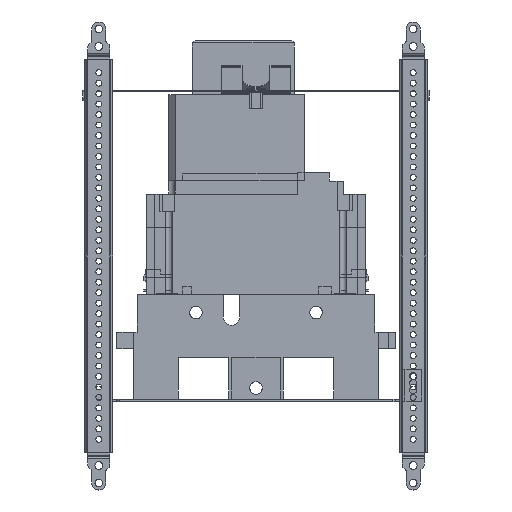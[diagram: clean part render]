
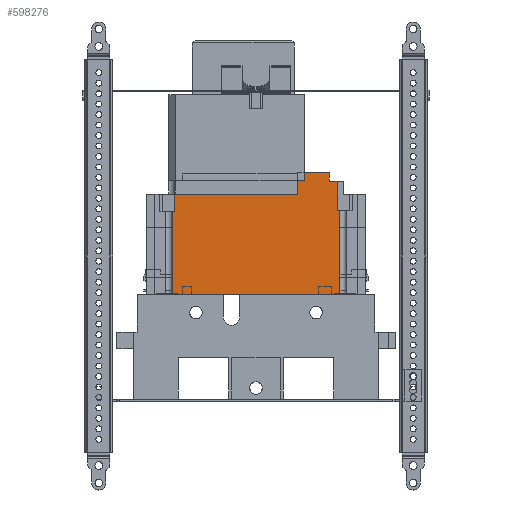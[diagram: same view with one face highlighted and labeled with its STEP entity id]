
A CAD part, left-side view. The second image highlights one B-rep face of the part: STEP entity #598276.
In plain terms, the highlighted planar face has unit normal (-1, 0, 0).
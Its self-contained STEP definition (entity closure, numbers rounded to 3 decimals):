
#583701=CARTESIAN_POINT(' ',(-266.811,-53.177,9.353));
#583702=VERTEX_POINT(' ',#583701);
#583716=CARTESIAN_POINT(' ',(-266.811,-53.177,9.353));
#583721=DIRECTION(' ',(0.,1.,0.));
#583726=VECTOR(' ',#583721,1.);
#583731=LINE('',#583716,#583726);
#583736=CARTESIAN_POINT(' ',(-266.811,59.243,9.353));
#583737=VERTEX_POINT(' ',#583736);
#583741=EDGE_CURVE(' ',#583702,#583737,#583731,.T.);
#597656=CARTESIAN_POINT(' ',(-266.811,-53.177,9.353));
#597661=DIRECTION(' ',(0.,0.,1.));
#597666=VECTOR(' ',#597661,1.);
#597671=LINE('',#597656,#597666);
#597676=CARTESIAN_POINT(' ',(-266.811,-53.177,9.853));
#597677=VERTEX_POINT(' ',#597676);
#597681=EDGE_CURVE(' ',#583702,#597677,#597671,.T.);
#597746=DIRECTION(' ',(-1.,0.,0.));
#597751=CARTESIAN_POINT(' ',(-266.811,-56.879,9.353));
#597756=DIRECTION(' ',(0.,-0.,1.));
#597761=AXIS2_PLACEMENT_3D(' ',#597751,#597746,#597756);
#597766=PLANE('NONE',#597761);
#597771=CARTESIAN_POINT(' ',(-266.811,-56.879,69.284));
#597776=DIRECTION(' ',(0.,0.,-1.));
#597781=VECTOR(' ',#597776,1.);
#597786=LINE('',#597771,#597781);
#597791=CARTESIAN_POINT(' ',(-266.811,-56.879,69.284));
#597792=VERTEX_POINT(' ',#597791);
#597796=CARTESIAN_POINT(' ',(-266.811,-56.879,9.853));
#597797=VERTEX_POINT(' ',#597796);
#597801=EDGE_CURVE(' ',#597792,#597797,#597786,.T.);
#597806=ORIENTED_EDGE(' ',*,*,#597801,.F.);
#597811=CARTESIAN_POINT(' ',(-266.811,-54.979,69.284));
#597816=DIRECTION(' ',(0.,-1.,0.));
#597821=VECTOR(' ',#597816,1.);
#597826=LINE('',#597811,#597821);
#597831=CARTESIAN_POINT(' ',(-266.811,-54.979,69.284));
#597832=VERTEX_POINT(' ',#597831);
#597836=EDGE_CURVE(' ',#597832,#597792,#597826,.T.);
#597841=ORIENTED_EDGE(' ',*,*,#597836,.F.);
#597846=CARTESIAN_POINT(' ',(-266.811,-54.979,90.494));
#597851=DIRECTION(' ',(0.,0.,-1.));
#597856=VECTOR(' ',#597851,1.);
#597861=LINE('',#597846,#597856);
#597866=CARTESIAN_POINT(' ',(-266.811,-54.979,90.494));
#597867=VERTEX_POINT(' ',#597866);
#597871=EDGE_CURVE(' ',#597867,#597832,#597861,.T.);
#597876=ORIENTED_EDGE(' ',*,*,#597871,.F.);
#597881=CARTESIAN_POINT(' ',(-266.811,-49.482,90.494));
#597886=DIRECTION(' ',(0.,-1.,0.));
#597891=VECTOR(' ',#597886,1.);
#597896=LINE('',#597881,#597891);
#597901=CARTESIAN_POINT(' ',(-266.811,-49.482,90.494));
#597902=VERTEX_POINT(' ',#597901);
#597906=EDGE_CURVE(' ',#597902,#597867,#597896,.T.);
#597911=ORIENTED_EDGE(' ',*,*,#597906,.F.);
#597916=CARTESIAN_POINT(' ',(-266.811,-49.482,96.344));
#597921=DIRECTION(' ',(0.,0.,-1.));
#597926=VECTOR(' ',#597921,1.);
#597931=LINE('',#597916,#597926);
#597936=CARTESIAN_POINT(' ',(-266.811,-49.482,96.344));
#597937=VERTEX_POINT(' ',#597936);
#597941=EDGE_CURVE(' ',#597937,#597902,#597931,.T.);
#597946=ORIENTED_EDGE(' ',*,*,#597941,.F.);
#597951=CARTESIAN_POINT(' ',(-266.811,-26.984,96.344));
#597956=DIRECTION(' ',(0.,-1.,0.));
#597961=VECTOR(' ',#597956,1.);
#597966=LINE('',#597951,#597961);
#597971=CARTESIAN_POINT(' ',(-266.811,-26.984,96.344));
#597972=VERTEX_POINT(' ',#597971);
#597976=EDGE_CURVE(' ',#597972,#597937,#597966,.T.);
#597981=ORIENTED_EDGE(' ',*,*,#597976,.F.);
#597986=CARTESIAN_POINT(' ',(-266.811,-26.984,96.344));
#597991=DIRECTION(' ',(0.,0.,-1.));
#597996=VECTOR(' ',#597991,1.);
#598001=LINE('',#597986,#597996);
#598006=CARTESIAN_POINT(' ',(-266.811,-26.984,81.204));
#598007=VERTEX_POINT(' ',#598006);
#598011=EDGE_CURVE(' ',#597972,#598007,#598001,.T.);
#598016=ORIENTED_EDGE(' ',*,*,#598011,.T.);
#598021=CARTESIAN_POINT(' ',(-266.811,-26.984,81.204));
#598026=DIRECTION(' ',(0.,1.,0.));
#598031=VECTOR(' ',#598026,1.);
#598036=LINE('',#598021,#598031);
#598041=CARTESIAN_POINT(' ',(-266.811,61.043,81.204));
#598042=VERTEX_POINT(' ',#598041);
#598046=EDGE_CURVE(' ',#598007,#598042,#598036,.T.);
#598051=ORIENTED_EDGE(' ',*,*,#598046,.T.);
#598056=CARTESIAN_POINT(' ',(-266.811,61.043,81.204));
#598061=DIRECTION(' ',(0.,0.,-1.));
#598066=VECTOR(' ',#598061,1.);
#598071=LINE('',#598056,#598066);
#598076=CARTESIAN_POINT(' ',(-266.811,61.043,68.904));
#598077=VERTEX_POINT(' ',#598076);
#598081=EDGE_CURVE(' ',#598042,#598077,#598071,.T.);
#598086=ORIENTED_EDGE(' ',*,*,#598081,.T.);
#598091=CARTESIAN_POINT(' ',(-266.811,61.043,68.904));
#598096=DIRECTION(' ',(0.,1.,0.));
#598101=VECTOR(' ',#598096,1.);
#598106=LINE('',#598091,#598101);
#598111=CARTESIAN_POINT(' ',(-266.811,62.945,68.904));
#598112=VERTEX_POINT(' ',#598111);
#598116=EDGE_CURVE(' ',#598077,#598112,#598106,.T.);
#598121=ORIENTED_EDGE(' ',*,*,#598116,.T.);
#598126=CARTESIAN_POINT(' ',(-266.811,62.945,9.853));
#598131=DIRECTION(' ',(0.,0.,1.));
#598136=VECTOR(' ',#598131,1.);
#598141=LINE('',#598126,#598136);
#598146=CARTESIAN_POINT(' ',(-266.811,62.945,9.853));
#598147=VERTEX_POINT(' ',#598146);
#598151=EDGE_CURVE(' ',#598147,#598112,#598141,.T.);
#598156=ORIENTED_EDGE(' ',*,*,#598151,.F.);
#598161=CARTESIAN_POINT(' ',(-266.811,62.945,9.853));
#598166=DIRECTION(' ',(0.,-1.,0.));
#598171=VECTOR(' ',#598166,1.);
#598176=LINE('',#598161,#598171);
#598181=CARTESIAN_POINT(' ',(-266.811,59.243,9.853));
#598182=VERTEX_POINT(' ',#598181);
#598186=EDGE_CURVE(' ',#598147,#598182,#598176,.T.);
#598191=ORIENTED_EDGE(' ',*,*,#598186,.T.);
#598196=CARTESIAN_POINT(' ',(-266.811,59.243,9.353));
#598201=DIRECTION(' ',(0.,0.,1.));
#598206=VECTOR(' ',#598201,1.);
#598211=LINE('',#598196,#598206);
#598216=EDGE_CURVE(' ',#583737,#598182,#598211,.T.);
#598221=ORIENTED_EDGE(' ',*,*,#598216,.F.);
#598226=ORIENTED_EDGE(' ',*,*,#583741,.F.);
#598231=ORIENTED_EDGE(' ',*,*,#597681,.T.);
#598236=CARTESIAN_POINT(' ',(-266.811,-56.879,9.853));
#598241=DIRECTION(' ',(0.,1.,0.));
#598246=VECTOR(' ',#598241,1.);
#598251=LINE('',#598236,#598246);
#598256=EDGE_CURVE(' ',#597797,#597677,#598251,.T.);
#598261=ORIENTED_EDGE(' ',*,*,#598256,.F.);
#598266=EDGE_LOOP(' ',(#597806,#597841,#597876,#597911,#597946,#597981,#598016,#598051,#598086,#598121,#598156,#598191,#598221,#598226,#598231,#598261));
#598271=FACE_OUTER_BOUND(' ',#598266,.T.);
#598276=ADVANCED_FACE('NONE',(#598271),#597766,.T.);
